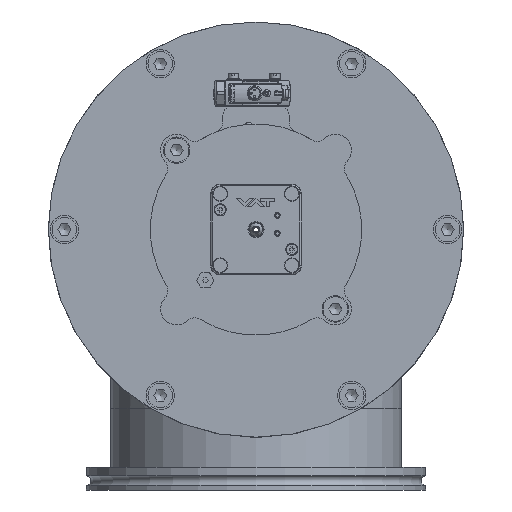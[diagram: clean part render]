
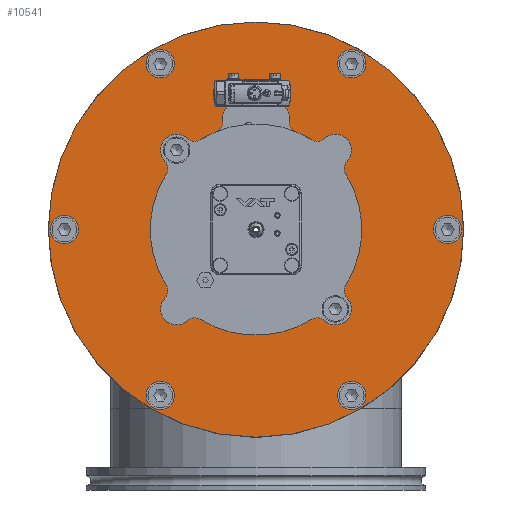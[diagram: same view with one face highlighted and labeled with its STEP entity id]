
A CAD part, left-side view. The second image highlights one B-rep face of the part: STEP entity #10541.
In plain terms, the highlighted planar face has unit normal (-1, 0, 0).
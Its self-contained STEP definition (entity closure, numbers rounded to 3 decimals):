
#10541=ADVANCED_FACE('BCT_REF_56940',(#13855,#13856,#13857,#13858,#13859,
#13860,#13861,#13862,#13863,#13864,#13865,#13866),#11752,.F.);
#11752=PLANE('',#31882);
#12684=CIRCLE('',#31868,110.);
#12686=CIRCLE('',#31871,3.4);
#12687=CIRCLE('',#31872,3.4);
#12688=CIRCLE('',#31873,3.4);
#12689=CIRCLE('',#31874,3.4);
#12690=CIRCLE('',#31875,7.5);
#12691=CIRCLE('',#31876,7.5);
#12692=CIRCLE('',#31877,7.5);
#12693=CIRCLE('',#31878,7.5);
#12694=CIRCLE('',#31879,7.5);
#12695=CIRCLE('',#31880,7.5);
#12696=CIRCLE('',#31881,55.145);
#13855=FACE_BOUND('',#14879,.T.);
#13856=FACE_BOUND('',#14880,.T.);
#13857=FACE_BOUND('',#14881,.T.);
#13858=FACE_BOUND('',#14882,.T.);
#13859=FACE_BOUND('',#14883,.T.);
#13860=FACE_BOUND('',#14884,.T.);
#13861=FACE_BOUND('',#14885,.T.);
#13862=FACE_BOUND('',#14886,.T.);
#13863=FACE_BOUND('',#14887,.T.);
#13864=FACE_BOUND('',#14888,.T.);
#13865=FACE_BOUND('',#14889,.T.);
#13866=FACE_BOUND('',#14890,.T.);
#14879=EDGE_LOOP('',(#17583));
#14880=EDGE_LOOP('',(#17584));
#14881=EDGE_LOOP('',(#17585));
#14882=EDGE_LOOP('',(#17586));
#14883=EDGE_LOOP('',(#17587));
#14884=EDGE_LOOP('',(#17588));
#14885=EDGE_LOOP('',(#17589));
#14886=EDGE_LOOP('',(#17590));
#14887=EDGE_LOOP('',(#17591));
#14888=EDGE_LOOP('',(#17592));
#14889=EDGE_LOOP('',(#17593));
#14890=EDGE_LOOP('',(#17594));
#17583=ORIENTED_EDGE('',*,*,#25396,.T.);
#17584=ORIENTED_EDGE('',*,*,#25397,.T.);
#17585=ORIENTED_EDGE('',*,*,#25398,.T.);
#17586=ORIENTED_EDGE('',*,*,#25399,.T.);
#17587=ORIENTED_EDGE('',*,*,#25400,.T.);
#17588=ORIENTED_EDGE('',*,*,#25401,.T.);
#17589=ORIENTED_EDGE('',*,*,#25402,.T.);
#17590=ORIENTED_EDGE('',*,*,#25403,.T.);
#17591=ORIENTED_EDGE('',*,*,#25404,.T.);
#17592=ORIENTED_EDGE('',*,*,#25405,.T.);
#17593=ORIENTED_EDGE('',*,*,#25406,.T.);
#17594=ORIENTED_EDGE('',*,*,#25392,.T.);
#23035=VERTEX_POINT('',#44222);
#23038=VERTEX_POINT('',#44230);
#23039=VERTEX_POINT('',#44232);
#23040=VERTEX_POINT('',#44234);
#23041=VERTEX_POINT('',#44236);
#23042=VERTEX_POINT('',#44238);
#23043=VERTEX_POINT('',#44240);
#23044=VERTEX_POINT('',#44242);
#23045=VERTEX_POINT('',#44244);
#23046=VERTEX_POINT('',#44246);
#23047=VERTEX_POINT('',#44248);
#23048=VERTEX_POINT('',#44250);
#25392=EDGE_CURVE('',#23035,#23035,#12684,.T.);
#25396=EDGE_CURVE('',#23038,#23038,#12686,.T.);
#25397=EDGE_CURVE('',#23039,#23039,#12687,.T.);
#25398=EDGE_CURVE('',#23040,#23040,#12688,.T.);
#25399=EDGE_CURVE('',#23041,#23041,#12689,.T.);
#25400=EDGE_CURVE('BCT_REF_65930',#23042,#23042,#12690,.T.);
#25401=EDGE_CURVE('',#23043,#23043,#12691,.T.);
#25402=EDGE_CURVE('',#23044,#23044,#12692,.T.);
#25403=EDGE_CURVE('',#23045,#23045,#12693,.T.);
#25404=EDGE_CURVE('',#23046,#23046,#12694,.T.);
#25405=EDGE_CURVE('',#23047,#23047,#12695,.T.);
#25406=EDGE_CURVE('',#23048,#23048,#12696,.T.);
#31868=AXIS2_PLACEMENT_3D('',#44221,#35316,#35317);
#31871=AXIS2_PLACEMENT_3D('',#44229,#35324,#35325);
#31872=AXIS2_PLACEMENT_3D('',#44231,#35326,#35327);
#31873=AXIS2_PLACEMENT_3D('',#44233,#35328,#35329);
#31874=AXIS2_PLACEMENT_3D('',#44235,#35330,#35331);
#31875=AXIS2_PLACEMENT_3D('',#44237,#35332,#35333);
#31876=AXIS2_PLACEMENT_3D('',#44239,#35334,#35335);
#31877=AXIS2_PLACEMENT_3D('',#44241,#35336,#35337);
#31878=AXIS2_PLACEMENT_3D('',#44243,#35338,#35339);
#31879=AXIS2_PLACEMENT_3D('',#44245,#35340,#35341);
#31880=AXIS2_PLACEMENT_3D('',#44247,#35342,#35343);
#31881=AXIS2_PLACEMENT_3D('',#44249,#35344,#35345);
#31882=AXIS2_PLACEMENT_3D('',#44251,#35346,#35347);
#35316=DIRECTION('',(-1.,0.,0.));
#35317=DIRECTION('',(0.,0.,1.));
#35324=DIRECTION('',(1.,0.,0.));
#35325=DIRECTION('',(0.,-1.,0.));
#35326=DIRECTION('',(1.,0.,0.));
#35327=DIRECTION('',(0.,0.,1.));
#35328=DIRECTION('',(1.,0.,0.));
#35329=DIRECTION('',(0.,1.,0.));
#35330=DIRECTION('',(1.,0.,0.));
#35331=DIRECTION('',(0.,0.,-1.));
#35332=DIRECTION('',(1.,0.,0.));
#35333=DIRECTION('',(0.,-0.866,-0.5));
#35334=DIRECTION('',(1.,0.,0.));
#35335=DIRECTION('',(0.,-0.866,0.5));
#35336=DIRECTION('',(1.,0.,0.));
#35337=DIRECTION('',(0.,0.,1.));
#35338=DIRECTION('',(1.,0.,0.));
#35339=DIRECTION('',(0.,0.866,0.5));
#35340=DIRECTION('',(1.,0.,0.));
#35341=DIRECTION('',(0.,0.866,-0.5));
#35342=DIRECTION('',(1.,0.,0.));
#35343=DIRECTION('',(0.,0.,-1.));
#35344=DIRECTION('',(1.,0.,0.));
#35345=DIRECTION('',(0.,0.,-1.));
#35346=DIRECTION('',(1.,0.,0.));
#35347=DIRECTION('',(0.,0.,-1.));
#44221=CARTESIAN_POINT('',(0.,0.,0.));
#44222=CARTESIAN_POINT('',(0.,0.,110.));
#44229=CARTESIAN_POINT('',(0.,-42.073,-42.073));
#44230=CARTESIAN_POINT('',(0.,-45.473,-42.073));
#44231=CARTESIAN_POINT('',(0.,-42.073,42.073));
#44232=CARTESIAN_POINT('',(0.,-42.073,45.473));
#44233=CARTESIAN_POINT('',(0.,42.073,42.073));
#44234=CARTESIAN_POINT('',(0.,45.473,42.073));
#44235=CARTESIAN_POINT('',(0.,42.073,-42.073));
#44236=CARTESIAN_POINT('',(0.,42.073,-45.473));
#44237=CARTESIAN_POINT('',(0.,50.75,-87.902));
#44238=CARTESIAN_POINT('',(0.,44.255,-91.652));
#44239=CARTESIAN_POINT('',(0.,-50.75,-87.902));
#44240=CARTESIAN_POINT('',(0.,-57.245,-84.152));
#44241=CARTESIAN_POINT('',(0.,-101.5,0.));
#44242=CARTESIAN_POINT('',(0.,-101.5,7.5));
#44243=CARTESIAN_POINT('',(0.,-50.75,87.902));
#44244=CARTESIAN_POINT('',(0.,-44.255,91.652));
#44245=CARTESIAN_POINT('',(0.,50.75,87.902));
#44246=CARTESIAN_POINT('',(0.,57.245,84.152));
#44247=CARTESIAN_POINT('',(0.,101.5,0.));
#44248=CARTESIAN_POINT('',(0.,101.5,-7.5));
#44249=CARTESIAN_POINT('',(0.,0.,0.));
#44250=CARTESIAN_POINT('',(0.,0.,-55.145));
#44251=CARTESIAN_POINT('',(0.,110.,0.));
